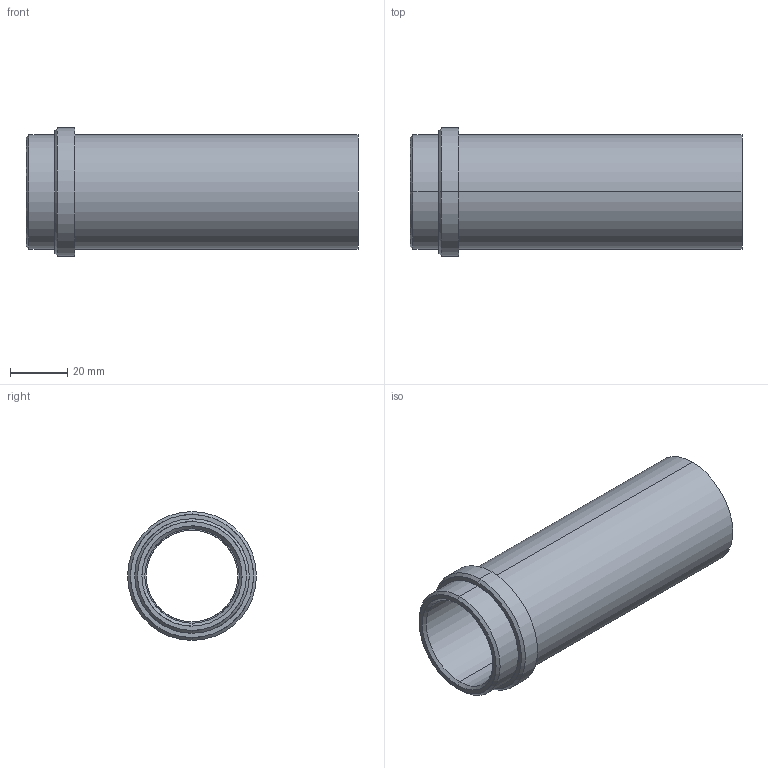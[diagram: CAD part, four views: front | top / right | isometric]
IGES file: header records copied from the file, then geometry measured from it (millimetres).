
Start section: START RECORD GO HERE.
Global section: file name: 358-32x116.igs; native system: DASSAULT SYSTEMES CATIA V5 R20 - www.3ds.com; preprocessor: CATIA Version 5 Release 20 ; author: Utente; organization: NB04-ASUS; date: 20210409.151235; units: millimetre
Bounding box: 116 x 45 x 45 mm (x, y, z)
Surface area: 27781.3 mm2 (no closed solid volume)
Topology: 0 solids, 0 shells, 23 faces, 148 edges, 148 vertices
Faces by surface type: revolution 18, plane 5
